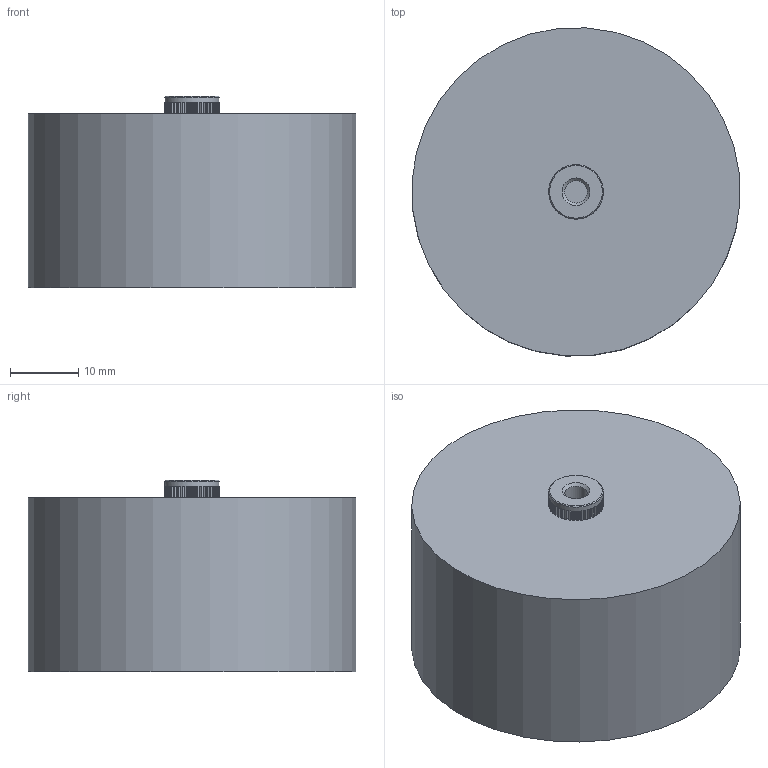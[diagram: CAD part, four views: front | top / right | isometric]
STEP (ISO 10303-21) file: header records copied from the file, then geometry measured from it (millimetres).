
FILE_DESCRIPTION((''),'2;1');
FILE_NAME('I:\Marketing\M6t1\M6T1 - Internal\Drawings\Werk 3\Finished product\Ceramite\Upload for homepage\715\715C###KT###\715C30KTD17.stp','2013-06-10T14:33:48',('sherden'),(''),'Autodesk Inventor 2013','Autodesk Inventor 2013','');
FILE_SCHEMA(('AUTOMOTIVE_DESIGN { 1 2 10303 214 0 1 1 1 }'));
Length unit declared in the file: millimetre
Products named in the file (1): 715C30KTD17
Bounding box: 47.9 x 47.9 x 28 mm (x, y, z)
Volume: 46102.7 mm3; surface area: 7811 mm2
Topology: 1 solids, 41 shells, 573 faces, 1419 edges, 932 vertices
Faces by surface type: plane 486, cylinder 84, cone 3
Full cylindrical faces by diameter (mm): 3.302 x2, 7.95 x1, 48 x1
Entity records: 17304 total; most frequent: CARTESIAN_POINT 2916, ORIENTED_EDGE 2822, DIRECTION 2810, EDGE_CURVE 1411, VECTOR 1160, LINE 1160, VERTEX_POINT 931, AXIS2_PLACEMENT_3D 825
